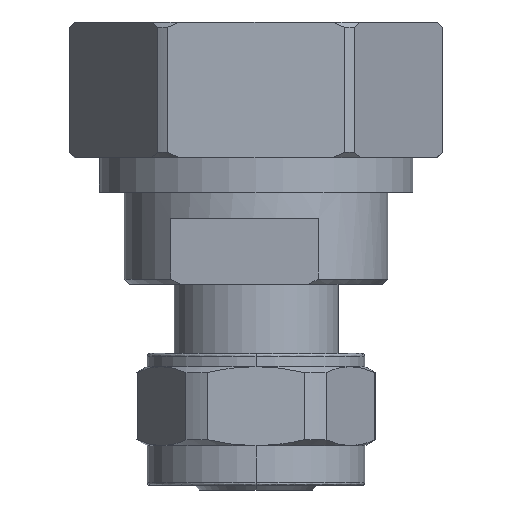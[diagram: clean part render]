
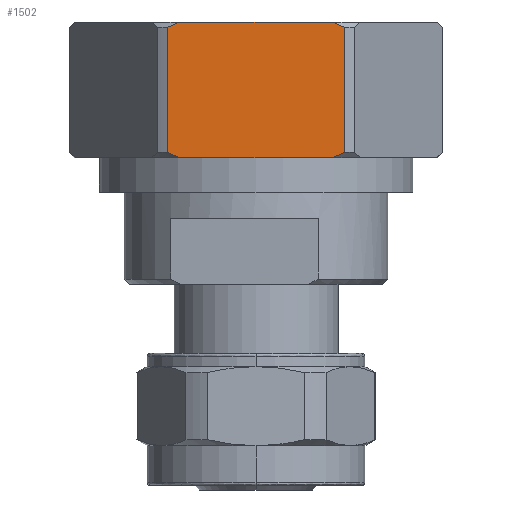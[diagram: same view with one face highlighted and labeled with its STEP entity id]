
A CAD part, left-side view. The second image highlights one B-rep face of the part: STEP entity #1502.
In plain terms, the highlighted planar face has unit normal (-1, 0, 0).
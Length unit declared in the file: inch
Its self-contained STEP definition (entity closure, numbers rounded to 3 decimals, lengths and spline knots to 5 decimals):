
#163 = CARTESIAN_POINT ( 'NONE',  ( -0.625, 0.33475, 0.07164 ) ) ;
#400 = CARTESIAN_POINT ( 'NONE',  ( -0.625, 0.30449, 0.08555 ) ) ;
#699 = CARTESIAN_POINT ( 'NONE',  ( -0.625, 0.30449, -0.41655 ) ) ;
#724 = B_SPLINE_CURVE_WITH_KNOTS ( 'NONE', 3,
 ( #7512, #1477, #699, #8265 ),
 .UNSPECIFIED., .F., .F.,
 ( 4, 4 ),
 ( 0., 0.00127 ),
 .UNSPECIFIED. ) ;
#813 = VECTOR ( 'NONE', #4101, 39.37008 ) ;
#914 = VERTEX_POINT ( 'NONE', #1317 ) ;
#1151 = CARTESIAN_POINT ( 'NONE',  ( -0.625, -0.30449, 0.08555 ) ) ;
#1293 = VECTOR ( 'NONE', #2186, 39.37008 ) ;
#1317 = CARTESIAN_POINT ( 'NONE',  ( -0.625, -0.33475, 0.07164 ) ) ;
#1371 = ORIENTED_EDGE ( 'NONE', *, *, #7044, .T. ) ;
#1393 = EDGE_CURVE ( 'NONE', #4371, #914, #4056, .T. ) ;
#1445 = CARTESIAN_POINT ( 'NONE',  ( -0.625, 0.28914, 0.092 ) ) ;
#1450 = CARTESIAN_POINT ( 'NONE',  ( -0.625, 0., -0.423 ) ) ;
#1477 = CARTESIAN_POINT ( 'NONE',  ( -0.625, 0.31969, -0.40975 ) ) ;
#1502 = ADVANCED_FACE ( 'NONE', ( #1625 ), #1612, .T. ) ;
#1612 = PLANE ( 'NONE',  #1654 ) ;
#1625 = FACE_OUTER_BOUND ( 'NONE', #8099, .T. ) ;
#1654 = AXIS2_PLACEMENT_3D ( 'NONE', #7608, #6867, #2363 ) ;
#1760 = EDGE_CURVE ( 'NONE', #914, #4198, #6973, .T. ) ;
#1844 = CARTESIAN_POINT ( 'NONE',  ( -0.625, -0.33475, -0.40264 ) ) ;
#2157 = CARTESIAN_POINT ( 'NONE',  ( -0.625, -0.28914, 0.092 ) ) ;
#2186 = DIRECTION ( 'NONE',  ( 0., -1., 0. ) ) ;
#2258 = ORIENTED_EDGE ( 'NONE', *, *, #1760, .T. ) ;
#2291 = EDGE_CURVE ( 'NONE', #2675, #7988, #724, .T. ) ;
#2363 = DIRECTION ( 'NONE',  ( 0., 0., 1. ) ) ;
#2672 = CARTESIAN_POINT ( 'NONE',  ( -0.625, 0.31969, 0.07875 ) ) ;
#2675 = VERTEX_POINT ( 'NONE', #7265 ) ;
#2683 = CARTESIAN_POINT ( 'NONE',  ( -0.625, -0.33475, -0.1655 ) ) ;
#2787 = ORIENTED_EDGE ( 'NONE', *, *, #6958, .T. ) ;
#2873 = LINE ( 'NONE', #9546, #4641 ) ;
#3421 = CARTESIAN_POINT ( 'NONE',  ( -0.625, -0.33475, -0.40264 ) ) ;
#3659 = VERTEX_POINT ( 'NONE', #1445 ) ;
#3966 = EDGE_CURVE ( 'NONE', #6308, #2675, #2873, .T. ) ;
#4046 = VERTEX_POINT ( 'NONE', #5769 ) ;
#4056 = LINE ( 'NONE', #2683, #7859 ) ;
#4101 = DIRECTION ( 'NONE',  ( 0., 1., 0. ) ) ;
#4138 = CARTESIAN_POINT ( 'NONE',  ( -0.625, -0.31969, 0.07875 ) ) ;
#4198 = VERTEX_POINT ( 'NONE', #2157 ) ;
#4202 = ORIENTED_EDGE ( 'NONE', *, *, #2291, .T. ) ;
#4371 = VERTEX_POINT ( 'NONE', #1844 ) ;
#4641 = VECTOR ( 'NONE', #5014, 39.37008 ) ;
#4816 = LINE ( 'NONE', #1450, #1293 ) ;
#4911 = CARTESIAN_POINT ( 'NONE',  ( -0.625, -0.33475, 0.07164 ) ) ;
#5014 = DIRECTION ( 'NONE',  ( 0., 0., -1. ) ) ;
#5659 = CARTESIAN_POINT ( 'NONE',  ( -0.625, -0.28914, -0.423 ) ) ;
#5769 = CARTESIAN_POINT ( 'NONE',  ( -0.625, -0.28914, -0.423 ) ) ;
#6308 = VERTEX_POINT ( 'NONE', #163 ) ;
#6409 = ORIENTED_EDGE ( 'NONE', *, *, #3966, .T. ) ;
#6424 = CARTESIAN_POINT ( 'NONE',  ( -0.625, -0.28914, 0.092 ) ) ;
#6429 = CARTESIAN_POINT ( 'NONE',  ( -0.625, 0.28914, 0.092 ) ) ;
#6867 = DIRECTION ( 'NONE',  ( -1., 0., 0. ) ) ;
#6958 = EDGE_CURVE ( 'NONE', #4198, #3659, #8383, .T. ) ;
#6973 = B_SPLINE_CURVE_WITH_KNOTS ( 'NONE', 3,
 ( #4911, #4138, #1151, #6424 ),
 .UNSPECIFIED., .F., .F.,
 ( 4, 4 ),
 ( 0., 0.00127 ),
 .UNSPECIFIED. ) ;
#7044 = EDGE_CURVE ( 'NONE', #4046, #4371, #9249, .T. ) ;
#7265 = CARTESIAN_POINT ( 'NONE',  ( -0.625, 0.33475, -0.40264 ) ) ;
#7378 = B_SPLINE_CURVE_WITH_KNOTS ( 'NONE', 3,
 ( #6429, #400, #2672, #7959 ),
 .UNSPECIFIED., .F., .F.,
 ( 4, 4 ),
 ( 0., 0.00127 ),
 .UNSPECIFIED. ) ;
#7512 = CARTESIAN_POINT ( 'NONE',  ( -0.625, 0.33475, -0.40264 ) ) ;
#7608 = CARTESIAN_POINT ( 'NONE',  ( -0.625, -0.33475, -0.423 ) ) ;
#7754 = EDGE_CURVE ( 'NONE', #7988, #4046, #4816, .T. ) ;
#7859 = VECTOR ( 'NONE', #7968, 39.37008 ) ;
#7942 = ORIENTED_EDGE ( 'NONE', *, *, #9290, .T. ) ;
#7949 = CARTESIAN_POINT ( 'NONE',  ( -0.625, -0.31969, -0.40975 ) ) ;
#7959 = CARTESIAN_POINT ( 'NONE',  ( -0.625, 0.33475, 0.07164 ) ) ;
#7968 = DIRECTION ( 'NONE',  ( 0., 0., 1. ) ) ;
#7988 = VERTEX_POINT ( 'NONE', #8735 ) ;
#8099 = EDGE_LOOP ( 'NONE', ( #8223, #1371, #8292, #2258, #2787, #7942, #6409, #4202 ) ) ;
#8223 = ORIENTED_EDGE ( 'NONE', *, *, #7754, .T. ) ;
#8265 = CARTESIAN_POINT ( 'NONE',  ( -0.625, 0.28914, -0.423 ) ) ;
#8292 = ORIENTED_EDGE ( 'NONE', *, *, #1393, .T. ) ;
#8383 = LINE ( 'NONE', #8639, #813 ) ;
#8639 = CARTESIAN_POINT ( 'NONE',  ( -0.625, 0., 0.092 ) ) ;
#8735 = CARTESIAN_POINT ( 'NONE',  ( -0.625, 0.28914, -0.423 ) ) ;
#9249 = B_SPLINE_CURVE_WITH_KNOTS ( 'NONE', 3,
 ( #5659, #9434, #7949, #3421 ),
 .UNSPECIFIED., .F., .F.,
 ( 4, 4 ),
 ( 0., 0.00127 ),
 .UNSPECIFIED. ) ;
#9290 = EDGE_CURVE ( 'NONE', #3659, #6308, #7378, .T. ) ;
#9434 = CARTESIAN_POINT ( 'NONE',  ( -0.625, -0.30449, -0.41655 ) ) ;
#9546 = CARTESIAN_POINT ( 'NONE',  ( -0.625, 0.33475, -0.1655 ) ) ;
